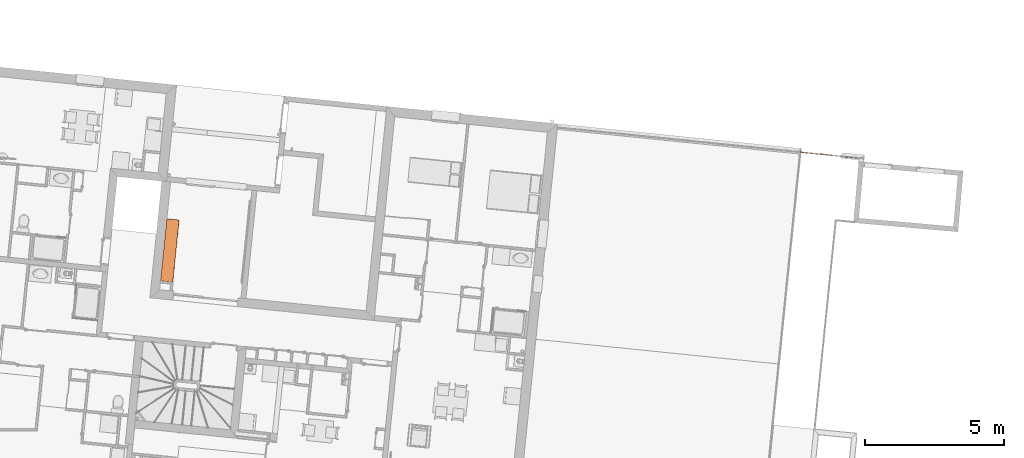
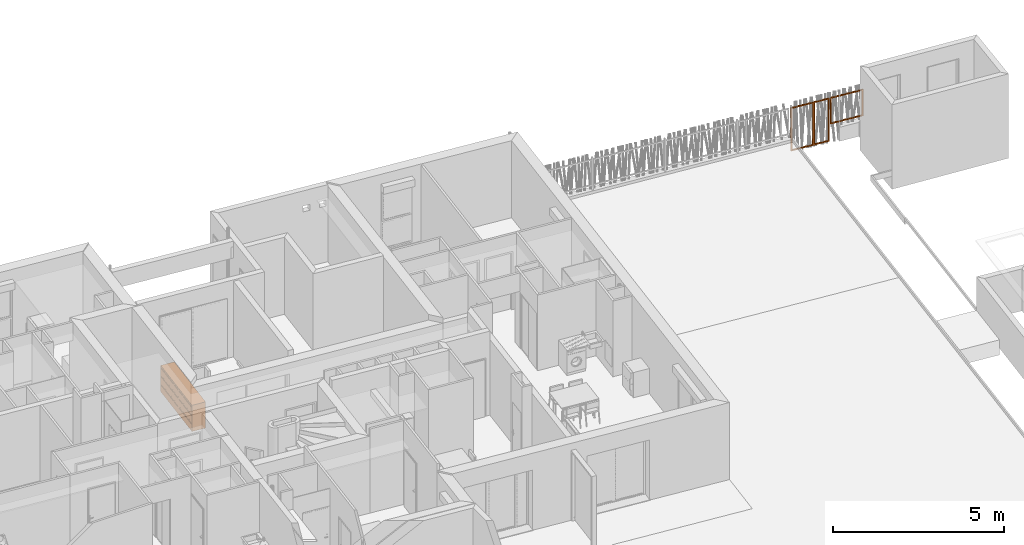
# One storey, part 171 of 171: 4 proxies.
"""IFC2X3 building model written with IfcOpenShell, lengths in millimetres."""

from ifc_helpers import new_model, entity, si_unit, converted_unit, derived_unit, money_unit, direction, frame, origin_with_axes, place, context, subcontext, project, spatial, faceted_brep, type_object, element, save


model = new_model("IFC2X3")

# Units and contexts
model_context = context("Model", 3, precision=0.01, world=origin_with_axes(), true_north=direction((0.0, 1.0)))
body_context = subcontext(model_context, "Body", "Model", "MODEL_VIEW")
ifc_project = project(units=[si_unit("LENGTHUNIT", "METRE", prefix="MILLI"), si_unit("AREAUNIT", "SQUARE_METRE"), si_unit("VOLUMEUNIT", "CUBIC_METRE"), converted_unit("PLANEANGLEUNIT", "DEGREE", entity("IfcPlaneAngleMeasure", 0.0174532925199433), si_unit("PLANEANGLEUNIT", "RADIAN"), dimensions=[0, 0, 0, 0, 0, 0, 0]), money_unit("USD"), converted_unit("TIMEUNIT", "Year", entity("IfcTimeMeasure", 31557600.0), si_unit("TIMEUNIT", "SECOND"), dimensions=[0, 0, 1, 0, 0, 0, 0]), si_unit("MASSUNIT", "GRAM", prefix="KILO"), si_unit("THERMODYNAMICTEMPERATUREUNIT", "DEGREE_CELSIUS"), si_unit("LUMINOUSINTENSITYUNIT", "LUMEN"), si_unit("ENERGYUNIT", "JOULE", prefix="MEGA"), derived_unit("THERMALCONDUCTANCEUNIT", [(si_unit("POWERUNIT", "WATT"), 1), (si_unit("LENGTHUNIT", "METRE"), -1), (si_unit("THERMODYNAMICTEMPERATUREUNIT", "KELVIN"), -1)]), derived_unit("SPECIFICHEATCAPACITYUNIT", [(si_unit("ENERGYUNIT", "JOULE"), 1), (si_unit("MASSUNIT", "GRAM", prefix="KILO"), -1), (si_unit("THERMODYNAMICTEMPERATUREUNIT", "KELVIN"), -1)]), derived_unit("MASSDENSITYUNIT", [(si_unit("MASSUNIT", "GRAM", prefix="KILO"), 1), (si_unit("VOLUMEUNIT", "CUBIC_METRE"), -1)])], contexts=[model_context])

# Site, building, storey
site_placement = place(None, origin_with_axes())
site = spatial("IfcSite", under=ifc_project, at=site_placement, Name="Site", CompositionType="ELEMENT")
building_placement = place(site_placement, origin_with_axes())
building = spatial("IfcBuilding", under=site, at=building_placement, Name="Bâtiment", CompositionType="ELEMENT")
storey_placement = place(building_placement, frame((0.0, 0.0, 3000.0), z_axis=(0.0, 0.0, 1.0), x_axis=(1.0, 0.0, 0.0)))
storey = spatial("IfcBuildingStorey", under=building, at=storey_placement, Name="rdc", CompositionType="ELEMENT", Elevation=3000.0)

# Proxies
building_element_proxy_type = type_object("IfcBuildingElementProxyType", PredefinedType="NOTDEFINED")
proxy_1_placement = place(storey_placement, frame((2226604.179989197, -609682.8712283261, 450.0000000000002), z_axis=(0.0, 0.0, 1.0), x_axis=(-0.1011032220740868, -0.9948759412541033, 0.0)))
element("IfcBuildingElementProxy", 1, at=proxy_1_placement, inside=storey, type_object=building_element_proxy_type, Name="Obj.-317", context=body_context, shape_type="Brep", body=[
    faceted_brep([(15.0, 0.0, 15.00000000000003), (329.0000000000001, 0.0, 15.00000000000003), (329.0000000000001, -440.0, 15.00000000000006), (15.0, -440.0, 15.00000000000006), (15.0, 0.0, 315.0), (329.0000000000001, 0.0, 315.0), (40.0, 0.0, 240.0), (304.0000000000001, 0.0, 240.0), (304.0000000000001, 0.0, 270.0), (40.0, 0.0, 270.0), (329.0000000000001, -440.0, 315.0), (15.0, -440.0, 315.0), (40.0, -440.0, 240.0000000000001), (40.0, -440.0, 270.0), (304.0000000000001, -440.0, 270.0), (304.0000000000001, -440.0, 240.0000000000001)], [[[0, 1, 2, 3]], [[0, 4, 5, 1], [6, 7, 8, 9]], [[1, 5, 10, 2]], [[3, 2, 10, 11], [12, 13, 14, 15]], [[4, 0, 3, 11]], [[5, 4, 11, 10]], [[7, 6, 12, 15]], [[8, 7, 15, 14]], [[9, 8, 14, 13]], [[6, 9, 13, 12]]]),
    faceted_brep([(137.0, 5.000000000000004, 75.00000000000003), (207.0, 5.000000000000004, 75.00000000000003), (207.0, 0.0, 75.00000000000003), (137.0, 0.0, 75.00000000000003), (137.0, 5.000000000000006, 100.0), (207.0, 5.000000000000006, 100.0), (207.0, 0.0, 100.0), (137.0, 0.0, 100.0)], [[[0, 1, 2, 3]], [[0, 4, 5, 1]], [[1, 5, 6, 2]], [[3, 2, 6, 7]], [[4, 0, 3, 7]], [[5, 4, 7, 6]]]),
    faceted_brep([(15.0, 0.0, 317.0), (329.0000000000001, 0.0, 317.0), (329.0000000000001, -440.0, 317.0), (15.0, -440.0, 317.0), (15.0, 0.0, 617.0), (329.0000000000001, 0.0, 617.0), (40.0, 0.0, 542.0), (304.0000000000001, 0.0, 542.0), (304.0000000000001, 0.0, 572.0000000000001), (40.0, 0.0, 572.0000000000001), (329.0000000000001, -440.0, 617.0), (15.0, -440.0, 617.0), (40.0, -440.0, 542.0), (40.0, -440.0, 572.0000000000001), (304.0000000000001, -440.0, 572.0000000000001), (304.0000000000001, -440.0, 542.0)], [[[0, 1, 2, 3]], [[0, 4, 5, 1], [6, 7, 8, 9]], [[1, 5, 10, 2]], [[3, 2, 10, 11], [12, 13, 14, 15]], [[4, 0, 3, 11]], [[5, 4, 11, 10]], [[7, 6, 12, 15]], [[8, 7, 15, 14]], [[9, 8, 14, 13]], [[6, 9, 13, 12]]]),
    faceted_brep([(137.0, 5.000000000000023, 377.0), (207.0, 5.000000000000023, 377.0), (207.0, 0.0, 377.0), (137.0, 0.0, 377.0), (137.0, 5.000000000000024, 402.0), (207.0, 5.000000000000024, 402.0), (207.0, 0.0, 402.0), (137.0, 0.0, 402.0)], [[[0, 1, 2, 3]], [[0, 4, 5, 1]], [[1, 5, 6, 2]], [[3, 2, 6, 7]], [[4, 0, 3, 7]], [[5, 4, 7, 6]]]),
    faceted_brep([(15.0, 0.0, 619.0), (329.0000000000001, 0.0, 619.0), (329.0000000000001, -439.9999999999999, 619.0), (15.0, -439.9999999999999, 619.0), (15.0, 0.0, 919.0), (329.0000000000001, 0.0, 919.0), (40.0, 0.0, 844.0), (304.0000000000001, 0.0, 844.0), (304.0000000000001, 0.0, 874.0), (40.0, 0.0, 874.0), (329.0000000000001, -439.9999999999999, 919.0), (15.0, -439.9999999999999, 919.0), (40.0, -439.9999999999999, 844.0), (40.0, -439.9999999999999, 874.0), (304.0000000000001, -439.9999999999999, 874.0), (304.0000000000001, -439.9999999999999, 844.0)], [[[0, 1, 2, 3]], [[0, 4, 5, 1], [6, 7, 8, 9]], [[1, 5, 10, 2]], [[3, 2, 10, 11], [12, 13, 14, 15]], [[4, 0, 3, 11]], [[5, 4, 11, 10]], [[7, 6, 12, 15]], [[8, 7, 15, 14]], [[9, 8, 14, 13]], [[6, 9, 13, 12]]]),
    faceted_brep([(137.0, 5.000000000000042, 679.0), (207.0, 5.000000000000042, 679.0), (207.0, 0.0, 679.0), (137.0, 0.0, 679.0), (137.0, 5.000000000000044, 704.0), (207.0, 5.000000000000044, 704.0), (207.0, 0.0, 704.0), (137.0, 0.0, 704.0)], [[[0, 1, 2, 3]], [[0, 4, 5, 1]], [[1, 5, 6, 2]], [[3, 2, 6, 7]], [[4, 0, 3, 7]], [[5, 4, 7, 6]]]),
    faceted_brep([(331.0000000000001, 0.0, 15.00000000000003), (645.0000000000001, 0.0, 15.00000000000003), (645.0000000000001, -440.0, 15.00000000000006), (331.0000000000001, -440.0, 15.00000000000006), (331.0000000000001, 0.0, 315.0), (645.0000000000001, 0.0, 315.0), (356.0000000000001, 0.0, 240.0), (620.0000000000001, 0.0, 240.0), (620.0000000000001, 0.0, 270.0), (356.0000000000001, 0.0, 270.0), (645.0000000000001, -440.0, 315.0), (331.0000000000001, -440.0, 315.0), (356.0000000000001, -440.0, 240.0000000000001), (356.0000000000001, -440.0, 270.0), (620.0000000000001, -440.0, 270.0), (620.0000000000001, -440.0, 240.0000000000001)], [[[0, 1, 2, 3]], [[0, 4, 5, 1], [6, 7, 8, 9]], [[1, 5, 10, 2]], [[3, 2, 10, 11], [12, 13, 14, 15]], [[4, 0, 3, 11]], [[5, 4, 11, 10]], [[7, 6, 12, 15]], [[8, 7, 15, 14]], [[9, 8, 14, 13]], [[6, 9, 13, 12]]]),
    faceted_brep([(453.0000000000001, 5.000000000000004, 75.00000000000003), (523.0000000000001, 5.000000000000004, 75.00000000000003), (523.0000000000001, 0.0, 75.00000000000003), (453.0000000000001, 0.0, 75.00000000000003), (453.0000000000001, 5.000000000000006, 100.0), (523.0000000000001, 5.000000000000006, 100.0), (523.0000000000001, 0.0, 100.0), (453.0000000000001, 0.0, 100.0)], [[[0, 1, 2, 3]], [[0, 4, 5, 1]], [[1, 5, 6, 2]], [[3, 2, 6, 7]], [[4, 0, 3, 7]], [[5, 4, 7, 6]]]),
    faceted_brep([(331.0000000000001, 0.0, 317.0), (645.0000000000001, 0.0, 317.0), (645.0000000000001, -440.0, 317.0), (331.0000000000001, -440.0, 317.0), (331.0000000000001, 0.0, 617.0), (645.0000000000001, 0.0, 617.0), (356.0000000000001, 0.0, 542.0), (620.0000000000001, 0.0, 542.0), (620.0000000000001, 0.0, 572.0000000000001), (356.0000000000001, 0.0, 572.0000000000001), (645.0000000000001, -440.0, 617.0), (331.0000000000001, -440.0, 617.0), (356.0000000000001, -440.0, 542.0), (356.0000000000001, -440.0, 572.0000000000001), (620.0000000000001, -440.0, 572.0000000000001), (620.0000000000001, -440.0, 542.0)], [[[0, 1, 2, 3]], [[0, 4, 5, 1], [6, 7, 8, 9]], [[1, 5, 10, 2]], [[3, 2, 10, 11], [12, 13, 14, 15]], [[4, 0, 3, 11]], [[5, 4, 11, 10]], [[7, 6, 12, 15]], [[8, 7, 15, 14]], [[9, 8, 14, 13]], [[6, 9, 13, 12]]]),
    faceted_brep([(453.0000000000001, 5.000000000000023, 377.0), (523.0000000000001, 5.000000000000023, 377.0), (523.0000000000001, 0.0, 377.0), (453.0000000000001, 0.0, 377.0), (453.0000000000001, 5.000000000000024, 402.0), (523.0000000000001, 5.000000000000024, 402.0), (523.0000000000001, 0.0, 402.0), (453.0000000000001, 0.0, 402.0)], [[[0, 1, 2, 3]], [[0, 4, 5, 1]], [[1, 5, 6, 2]], [[3, 2, 6, 7]], [[4, 0, 3, 7]], [[5, 4, 7, 6]]]),
    faceted_brep([(331.0000000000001, 0.0, 619.0), (645.0000000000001, 0.0, 619.0), (645.0000000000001, -439.9999999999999, 619.0), (331.0000000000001, -439.9999999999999, 619.0), (331.0000000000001, 0.0, 919.0), (645.0000000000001, 0.0, 919.0), (356.0000000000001, 0.0, 844.0), (620.0000000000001, 0.0, 844.0), (620.0000000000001, 0.0, 874.0), (356.0000000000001, 0.0, 874.0), (645.0000000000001, -439.9999999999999, 919.0), (331.0000000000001, -439.9999999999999, 919.0), (356.0000000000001, -439.9999999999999, 844.0), (356.0000000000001, -439.9999999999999, 874.0), (620.0000000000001, -439.9999999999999, 874.0), (620.0000000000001, -439.9999999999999, 844.0)], [[[0, 1, 2, 3]], [[0, 4, 5, 1], [6, 7, 8, 9]], [[1, 5, 10, 2]], [[3, 2, 10, 11], [12, 13, 14, 15]], [[4, 0, 3, 11]], [[5, 4, 11, 10]], [[7, 6, 12, 15]], [[8, 7, 15, 14]], [[9, 8, 14, 13]], [[6, 9, 13, 12]]]),
    faceted_brep([(453.0000000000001, 5.000000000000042, 679.0), (523.0000000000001, 5.000000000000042, 679.0), (523.0000000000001, 0.0, 679.0), (453.0000000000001, 0.0, 679.0), (453.0000000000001, 5.000000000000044, 704.0), (523.0000000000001, 5.000000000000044, 704.0), (523.0000000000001, 0.0, 704.0), (453.0000000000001, 0.0, 704.0)], [[[0, 1, 2, 3]], [[0, 4, 5, 1]], [[1, 5, 6, 2]], [[3, 2, 6, 7]], [[4, 0, 3, 7]], [[5, 4, 7, 6]]]),
    faceted_brep([(647.0000000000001, 0.0, 15.00000000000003), (961.0000000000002, 0.0, 15.00000000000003), (961.0000000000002, -440.0, 15.00000000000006), (647.0000000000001, -440.0, 15.00000000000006), (647.0000000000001, 0.0, 315.0), (961.0000000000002, 0.0, 315.0), (672.0000000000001, 0.0, 240.0), (936.0000000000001, 0.0, 240.0), (936.0000000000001, 0.0, 270.0), (672.0000000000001, 0.0, 270.0), (961.0000000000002, -440.0, 315.0), (647.0000000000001, -440.0, 315.0), (672.0000000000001, -440.0, 240.0000000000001), (672.0000000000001, -440.0, 270.0), (936.0000000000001, -440.0, 270.0), (936.0000000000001, -440.0, 240.0000000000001)], [[[0, 1, 2, 3]], [[0, 4, 5, 1], [6, 7, 8, 9]], [[1, 5, 10, 2]], [[3, 2, 10, 11], [12, 13, 14, 15]], [[4, 0, 3, 11]], [[5, 4, 11, 10]], [[7, 6, 12, 15]], [[8, 7, 15, 14]], [[9, 8, 14, 13]], [[6, 9, 13, 12]]]),
    faceted_brep([(769.0000000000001, 5.000000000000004, 75.00000000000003), (839.0000000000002, 5.000000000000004, 75.00000000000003), (839.0000000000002, 0.0, 75.00000000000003), (769.0000000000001, 0.0, 75.00000000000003), (769.0000000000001, 5.000000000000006, 100.0), (839.0000000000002, 5.000000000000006, 100.0), (839.0000000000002, 0.0, 100.0), (769.0000000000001, 0.0, 100.0)], [[[0, 1, 2, 3]], [[0, 4, 5, 1]], [[1, 5, 6, 2]], [[3, 2, 6, 7]], [[4, 0, 3, 7]], [[5, 4, 7, 6]]]),
    faceted_brep([(647.0000000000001, 0.0, 317.0), (961.0000000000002, 0.0, 317.0), (961.0000000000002, -440.0, 317.0), (647.0000000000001, -440.0, 317.0), (647.0000000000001, 0.0, 617.0), (961.0000000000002, 0.0, 617.0), (672.0000000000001, 0.0, 542.0), (936.0000000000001, 0.0, 542.0), (936.0000000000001, 0.0, 572.0000000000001), (672.0000000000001, 0.0, 572.0000000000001), (961.0000000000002, -440.0, 617.0), (647.0000000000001, -440.0, 617.0), (672.0000000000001, -440.0, 542.0), (672.0000000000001, -440.0, 572.0000000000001), (936.0000000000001, -440.0, 572.0000000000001), (936.0000000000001, -440.0, 542.0)], [[[0, 1, 2, 3]], [[0, 4, 5, 1], [6, 7, 8, 9]], [[1, 5, 10, 2]], [[3, 2, 10, 11], [12, 13, 14, 15]], [[4, 0, 3, 11]], [[5, 4, 11, 10]], [[7, 6, 12, 15]], [[8, 7, 15, 14]], [[9, 8, 14, 13]], [[6, 9, 13, 12]]]),
    faceted_brep([(769.0000000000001, 5.000000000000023, 377.0), (839.0000000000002, 5.000000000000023, 377.0), (839.0000000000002, 0.0, 377.0), (769.0000000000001, 0.0, 377.0), (769.0000000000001, 5.000000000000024, 402.0), (839.0000000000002, 5.000000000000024, 402.0), (839.0000000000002, 0.0, 402.0), (769.0000000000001, 0.0, 402.0)], [[[0, 1, 2, 3]], [[0, 4, 5, 1]], [[1, 5, 6, 2]], [[3, 2, 6, 7]], [[4, 0, 3, 7]], [[5, 4, 7, 6]]]),
    faceted_brep([(647.0000000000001, 0.0, 619.0), (961.0000000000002, 0.0, 619.0), (961.0000000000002, -439.9999999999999, 619.0), (647.0000000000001, -439.9999999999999, 619.0), (647.0000000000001, 0.0, 919.0), (961.0000000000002, 0.0, 919.0), (672.0000000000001, 0.0, 844.0), (936.0000000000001, 0.0, 844.0), (936.0000000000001, 0.0, 874.0), (672.0000000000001, 0.0, 874.0), (961.0000000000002, -439.9999999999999, 919.0), (647.0000000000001, -439.9999999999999, 919.0), (672.0000000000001, -439.9999999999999, 844.0), (672.0000000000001, -439.9999999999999, 874.0), (936.0000000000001, -439.9999999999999, 874.0), (936.0000000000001, -439.9999999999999, 844.0)], [[[0, 1, 2, 3]], [[0, 4, 5, 1], [6, 7, 8, 9]], [[1, 5, 10, 2]], [[3, 2, 10, 11], [12, 13, 14, 15]], [[4, 0, 3, 11]], [[5, 4, 11, 10]], [[7, 6, 12, 15]], [[8, 7, 15, 14]], [[9, 8, 14, 13]], [[6, 9, 13, 12]]]),
    faceted_brep([(769.0000000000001, 5.000000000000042, 679.0), (839.0000000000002, 5.000000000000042, 679.0), (839.0000000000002, 0.0, 679.0), (769.0000000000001, 0.0, 679.0), (769.0000000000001, 5.000000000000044, 704.0), (839.0000000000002, 5.000000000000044, 704.0), (839.0000000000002, 0.0, 704.0), (769.0000000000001, 0.0, 704.0)], [[[0, 1, 2, 3]], [[0, 4, 5, 1]], [[1, 5, 6, 2]], [[3, 2, 6, 7]], [[4, 0, 3, 7]], [[5, 4, 7, 6]]]),
    faceted_brep([(963.0000000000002, 0.0, 15.00000000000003), (1277.0, 0.0, 15.00000000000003), (1277.0, -440.0, 15.00000000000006), (963.0000000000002, -440.0, 15.00000000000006), (963.0000000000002, 0.0, 315.0), (1277.0, 0.0, 315.0), (988.0000000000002, 0.0, 240.0), (1252.0, 0.0, 240.0), (1252.0, 0.0, 270.0), (988.0000000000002, 0.0, 270.0), (1277.0, -440.0, 315.0), (963.0000000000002, -440.0, 315.0), (988.0000000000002, -440.0, 240.0000000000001), (988.0000000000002, -440.0, 270.0), (1252.0, -440.0, 270.0), (1252.0, -440.0, 240.0000000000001)], [[[0, 1, 2, 3]], [[0, 4, 5, 1], [6, 7, 8, 9]], [[1, 5, 10, 2]], [[3, 2, 10, 11], [12, 13, 14, 15]], [[4, 0, 3, 11]], [[5, 4, 11, 10]], [[7, 6, 12, 15]], [[8, 7, 15, 14]], [[9, 8, 14, 13]], [[6, 9, 13, 12]]]),
    faceted_brep([(1085.0, 5.000000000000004, 75.00000000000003), (1155.0, 5.000000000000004, 75.00000000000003), (1155.0, 0.0, 75.00000000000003), (1085.0, 0.0, 75.00000000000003), (1085.0, 5.000000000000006, 100.0), (1155.0, 5.000000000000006, 100.0), (1155.0, 0.0, 100.0), (1085.0, 0.0, 100.0)], [[[0, 1, 2, 3]], [[0, 4, 5, 1]], [[1, 5, 6, 2]], [[3, 2, 6, 7]], [[4, 0, 3, 7]], [[5, 4, 7, 6]]]),
    faceted_brep([(963.0000000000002, 0.0, 317.0), (1277.0, 0.0, 317.0), (1277.0, -440.0, 317.0), (963.0000000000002, -440.0, 317.0), (963.0000000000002, 0.0, 617.0), (1277.0, 0.0, 617.0), (988.0000000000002, 0.0, 542.0), (1252.0, 0.0, 542.0), (1252.0, 0.0, 572.0000000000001), (988.0000000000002, 0.0, 572.0000000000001), (1277.0, -440.0, 617.0), (963.0000000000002, -440.0, 617.0), (988.0000000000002, -440.0, 542.0), (988.0000000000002, -440.0, 572.0000000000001), (1252.0, -440.0, 572.0000000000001), (1252.0, -440.0, 542.0)], [[[0, 1, 2, 3]], [[0, 4, 5, 1], [6, 7, 8, 9]], [[1, 5, 10, 2]], [[3, 2, 10, 11], [12, 13, 14, 15]], [[4, 0, 3, 11]], [[5, 4, 11, 10]], [[7, 6, 12, 15]], [[8, 7, 15, 14]], [[9, 8, 14, 13]], [[6, 9, 13, 12]]]),
    faceted_brep([(1085.0, 5.000000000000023, 377.0), (1155.0, 5.000000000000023, 377.0), (1155.0, 0.0, 377.0), (1085.0, 0.0, 377.0), (1085.0, 5.000000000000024, 402.0), (1155.0, 5.000000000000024, 402.0), (1155.0, 0.0, 402.0), (1085.0, 0.0, 402.0)], [[[0, 1, 2, 3]], [[0, 4, 5, 1]], [[1, 5, 6, 2]], [[3, 2, 6, 7]], [[4, 0, 3, 7]], [[5, 4, 7, 6]]]),
    faceted_brep([(963.0000000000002, 0.0, 619.0), (1277.0, 0.0, 619.0), (1277.0, -439.9999999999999, 619.0), (963.0000000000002, -439.9999999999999, 619.0), (963.0000000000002, 0.0, 919.0), (1277.0, 0.0, 919.0), (988.0000000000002, 0.0, 844.0), (1252.0, 0.0, 844.0), (1252.0, 0.0, 874.0), (988.0000000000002, 0.0, 874.0), (1277.0, -439.9999999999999, 919.0), (963.0000000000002, -439.9999999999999, 919.0), (988.0000000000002, -439.9999999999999, 844.0), (988.0000000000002, -439.9999999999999, 874.0), (1252.0, -439.9999999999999, 874.0), (1252.0, -439.9999999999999, 844.0)], [[[0, 1, 2, 3]], [[0, 4, 5, 1], [6, 7, 8, 9]], [[1, 5, 10, 2]], [[3, 2, 10, 11], [12, 13, 14, 15]], [[4, 0, 3, 11]], [[5, 4, 11, 10]], [[7, 6, 12, 15]], [[8, 7, 15, 14]], [[9, 8, 14, 13]], [[6, 9, 13, 12]]]),
    faceted_brep([(1085.0, 5.000000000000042, 679.0), (1155.0, 5.000000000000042, 679.0), (1155.0, 0.0, 679.0), (1085.0, 0.0, 679.0), (1085.0, 5.000000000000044, 704.0), (1155.0, 5.000000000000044, 704.0), (1155.0, 0.0, 704.0), (1085.0, 0.0, 704.0)], [[[0, 1, 2, 3]], [[0, 4, 5, 1]], [[1, 5, 6, 2]], [[3, 2, 6, 7]], [[4, 0, 3, 7]], [[5, 4, 7, 6]]]),
    faceted_brep([(1279.0, 0.0, 15.00000000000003), (1593.0, 0.0, 15.00000000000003), (1593.0, -440.0, 15.00000000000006), (1279.0, -440.0, 15.00000000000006), (1279.0, 0.0, 315.0), (1593.0, 0.0, 315.0), (1304.0, 0.0, 240.0), (1568.0, 0.0, 240.0), (1568.0, 0.0, 270.0), (1304.0, 0.0, 270.0), (1593.0, -440.0, 315.0), (1279.0, -440.0, 315.0), (1304.0, -440.0, 240.0000000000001), (1304.0, -440.0, 270.0), (1568.0, -440.0, 270.0), (1568.0, -440.0, 240.0000000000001)], [[[0, 1, 2, 3]], [[0, 4, 5, 1], [6, 7, 8, 9]], [[1, 5, 10, 2]], [[3, 2, 10, 11], [12, 13, 14, 15]], [[4, 0, 3, 11]], [[5, 4, 11, 10]], [[7, 6, 12, 15]], [[8, 7, 15, 14]], [[9, 8, 14, 13]], [[6, 9, 13, 12]]]),
    faceted_brep([(1401.0, 5.000000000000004, 75.00000000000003), (1471.0, 5.000000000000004, 75.00000000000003), (1471.0, 0.0, 75.00000000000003), (1401.0, 0.0, 75.00000000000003), (1401.0, 5.000000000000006, 100.0), (1471.0, 5.000000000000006, 100.0), (1471.0, 0.0, 100.0), (1401.0, 0.0, 100.0)], [[[0, 1, 2, 3]], [[0, 4, 5, 1]], [[1, 5, 6, 2]], [[3, 2, 6, 7]], [[4, 0, 3, 7]], [[5, 4, 7, 6]]]),
    faceted_brep([(1279.0, 0.0, 317.0), (1593.0, 0.0, 317.0), (1593.0, -440.0, 317.0), (1279.0, -440.0, 317.0), (1279.0, 0.0, 617.0), (1593.0, 0.0, 617.0), (1304.0, 0.0, 542.0), (1568.0, 0.0, 542.0), (1568.0, 0.0, 572.0000000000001), (1304.0, 0.0, 572.0000000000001), (1593.0, -440.0, 617.0), (1279.0, -440.0, 617.0), (1304.0, -440.0, 542.0), (1304.0, -440.0, 572.0000000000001), (1568.0, -440.0, 572.0000000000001), (1568.0, -440.0, 542.0)], [[[0, 1, 2, 3]], [[0, 4, 5, 1], [6, 7, 8, 9]], [[1, 5, 10, 2]], [[3, 2, 10, 11], [12, 13, 14, 15]], [[4, 0, 3, 11]], [[5, 4, 11, 10]], [[7, 6, 12, 15]], [[8, 7, 15, 14]], [[9, 8, 14, 13]], [[6, 9, 13, 12]]]),
    faceted_brep([(1401.0, 5.000000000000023, 377.0), (1471.0, 5.000000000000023, 377.0), (1471.0, 0.0, 377.0), (1401.0, 0.0, 377.0), (1401.0, 5.000000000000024, 402.0), (1471.0, 5.000000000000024, 402.0), (1471.0, 0.0, 402.0), (1401.0, 0.0, 402.0)], [[[0, 1, 2, 3]], [[0, 4, 5, 1]], [[1, 5, 6, 2]], [[3, 2, 6, 7]], [[4, 0, 3, 7]], [[5, 4, 7, 6]]]),
    faceted_brep([(1279.0, 0.0, 619.0), (1593.0, 0.0, 619.0), (1593.0, -439.9999999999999, 619.0), (1279.0, -439.9999999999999, 619.0), (1279.0, 0.0, 919.0), (1593.0, 0.0, 919.0), (1304.0, 0.0, 844.0), (1568.0, 0.0, 844.0), (1568.0, 0.0, 874.0), (1304.0, 0.0, 874.0), (1593.0, -439.9999999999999, 919.0), (1279.0, -439.9999999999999, 919.0), (1304.0, -439.9999999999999, 844.0), (1304.0, -439.9999999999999, 874.0), (1568.0, -439.9999999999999, 874.0), (1568.0, -439.9999999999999, 844.0)], [[[0, 1, 2, 3]], [[0, 4, 5, 1], [6, 7, 8, 9]], [[1, 5, 10, 2]], [[3, 2, 10, 11], [12, 13, 14, 15]], [[4, 0, 3, 11]], [[5, 4, 11, 10]], [[7, 6, 12, 15]], [[8, 7, 15, 14]], [[9, 8, 14, 13]], [[6, 9, 13, 12]]]),
    faceted_brep([(1401.0, 5.000000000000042, 679.0), (1471.0, 5.000000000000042, 679.0), (1471.0, 0.0, 679.0), (1401.0, 0.0, 679.0), (1401.0, 5.000000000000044, 704.0), (1471.0, 5.000000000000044, 704.0), (1471.0, 0.0, 704.0), (1401.0, 0.0, 704.0)], [[[0, 1, 2, 3]], [[0, 4, 5, 1]], [[1, 5, 6, 2]], [[3, 2, 6, 7]], [[4, 0, 3, 7]], [[5, 4, 7, 6]]]),
    faceted_brep([(1595.0, 0.0, 15.00000000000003), (1909.0, 0.0, 15.00000000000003), (1909.0, -440.0, 15.00000000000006), (1595.0, -440.0, 15.00000000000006), (1595.0, 0.0, 315.0), (1909.0, 0.0, 315.0), (1620.0, 0.0, 240.0), (1884.0, 0.0, 240.0), (1884.0, 0.0, 270.0), (1620.0, 0.0, 270.0), (1909.0, -440.0, 315.0), (1595.0, -440.0, 315.0), (1620.0, -440.0, 240.0000000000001), (1620.0, -440.0, 270.0), (1884.0, -440.0, 270.0), (1884.0, -440.0, 240.0000000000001)], [[[0, 1, 2, 3]], [[0, 4, 5, 1], [6, 7, 8, 9]], [[1, 5, 10, 2]], [[3, 2, 10, 11], [12, 13, 14, 15]], [[4, 0, 3, 11]], [[5, 4, 11, 10]], [[7, 6, 12, 15]], [[8, 7, 15, 14]], [[9, 8, 14, 13]], [[6, 9, 13, 12]]]),
    faceted_brep([(1717.0, 5.000000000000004, 75.00000000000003), (1787.0, 5.000000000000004, 75.00000000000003), (1787.0, 0.0, 75.00000000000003), (1717.0, 0.0, 75.00000000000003), (1717.0, 5.000000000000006, 100.0), (1787.0, 5.000000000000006, 100.0), (1787.0, 0.0, 100.0), (1717.0, 0.0, 100.0)], [[[0, 1, 2, 3]], [[0, 4, 5, 1]], [[1, 5, 6, 2]], [[3, 2, 6, 7]], [[4, 0, 3, 7]], [[5, 4, 7, 6]]]),
    faceted_brep([(1595.0, 0.0, 317.0), (1909.0, 0.0, 317.0), (1909.0, -440.0, 317.0), (1595.0, -440.0, 317.0), (1595.0, 0.0, 617.0), (1909.0, 0.0, 617.0), (1620.0, 0.0, 542.0), (1884.0, 0.0, 542.0), (1884.0, 0.0, 572.0000000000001), (1620.0, 0.0, 572.0000000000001), (1909.0, -440.0, 617.0), (1595.0, -440.0, 617.0), (1620.0, -440.0, 542.0), (1620.0, -440.0, 572.0000000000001), (1884.0, -440.0, 572.0000000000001), (1884.0, -440.0, 542.0)], [[[0, 1, 2, 3]], [[0, 4, 5, 1], [6, 7, 8, 9]], [[1, 5, 10, 2]], [[3, 2, 10, 11], [12, 13, 14, 15]], [[4, 0, 3, 11]], [[5, 4, 11, 10]], [[7, 6, 12, 15]], [[8, 7, 15, 14]], [[9, 8, 14, 13]], [[6, 9, 13, 12]]]),
    faceted_brep([(1717.0, 5.000000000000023, 377.0), (1787.0, 5.000000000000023, 377.0), (1787.0, 0.0, 377.0), (1717.0, 0.0, 377.0), (1717.0, 5.000000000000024, 402.0), (1787.0, 5.000000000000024, 402.0), (1787.0, 0.0, 402.0), (1717.0, 0.0, 402.0)], [[[0, 1, 2, 3]], [[0, 4, 5, 1]], [[1, 5, 6, 2]], [[3, 2, 6, 7]], [[4, 0, 3, 7]], [[5, 4, 7, 6]]]),
    faceted_brep([(1595.0, 0.0, 619.0), (1909.0, 0.0, 619.0), (1909.0, -439.9999999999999, 619.0), (1595.0, -439.9999999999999, 619.0), (1595.0, 0.0, 919.0), (1909.0, 0.0, 919.0), (1620.0, 0.0, 844.0), (1884.0, 0.0, 844.0), (1884.0, 0.0, 874.0), (1620.0, 0.0, 874.0), (1909.0, -439.9999999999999, 919.0), (1595.0, -439.9999999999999, 919.0), (1620.0, -439.9999999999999, 844.0), (1620.0, -439.9999999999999, 874.0), (1884.0, -439.9999999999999, 874.0), (1884.0, -439.9999999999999, 844.0)], [[[0, 1, 2, 3]], [[0, 4, 5, 1], [6, 7, 8, 9]], [[1, 5, 10, 2]], [[3, 2, 10, 11], [12, 13, 14, 15]], [[4, 0, 3, 11]], [[5, 4, 11, 10]], [[7, 6, 12, 15]], [[8, 7, 15, 14]], [[9, 8, 14, 13]], [[6, 9, 13, 12]]]),
    faceted_brep([(1717.0, 5.000000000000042, 679.0), (1787.0, 5.000000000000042, 679.0), (1787.0, 0.0, 679.0), (1717.0, 0.0, 679.0), (1717.0, 5.000000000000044, 704.0), (1787.0, 5.000000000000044, 704.0), (1787.0, 0.0, 704.0), (1717.0, 0.0, 704.0)], [[[0, 1, 2, 3]], [[0, 4, 5, 1]], [[1, 5, 6, 2]], [[3, 2, 6, 7]], [[4, 0, 3, 7]], [[5, 4, 7, 6]]]),
    faceted_brep([(1911.0, 0.0, 15.00000000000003), (2225.0, 0.0, 15.00000000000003), (2225.0, -440.0, 15.00000000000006), (1911.0, -440.0, 15.00000000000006), (1911.0, 0.0, 315.0), (2225.0, 0.0, 315.0), (1936.0, 0.0, 240.0), (2200.0, 0.0, 240.0), (2200.0, 0.0, 270.0), (1936.0, 0.0, 270.0), (2225.0, -440.0, 315.0), (1911.0, -440.0, 315.0), (1936.0, -440.0, 240.0000000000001), (1936.0, -440.0, 270.0), (2200.0, -440.0, 270.0), (2200.0, -440.0, 240.0000000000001)], [[[0, 1, 2, 3]], [[0, 4, 5, 1], [6, 7, 8, 9]], [[1, 5, 10, 2]], [[3, 2, 10, 11], [12, 13, 14, 15]], [[4, 0, 3, 11]], [[5, 4, 11, 10]], [[7, 6, 12, 15]], [[8, 7, 15, 14]], [[9, 8, 14, 13]], [[6, 9, 13, 12]]]),
    faceted_brep([(2033.0, 5.000000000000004, 75.00000000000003), (2103.0, 5.000000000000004, 75.00000000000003), (2103.0, 0.0, 75.00000000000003), (2033.0, 0.0, 75.00000000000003), (2033.0, 5.000000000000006, 100.0), (2103.0, 5.000000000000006, 100.0), (2103.0, 0.0, 100.0), (2033.0, 0.0, 100.0)], [[[0, 1, 2, 3]], [[0, 4, 5, 1]], [[1, 5, 6, 2]], [[3, 2, 6, 7]], [[4, 0, 3, 7]], [[5, 4, 7, 6]]]),
    faceted_brep([(1911.0, 0.0, 317.0), (2225.0, 0.0, 317.0), (2225.0, -440.0, 317.0), (1911.0, -440.0, 317.0), (1911.0, 0.0, 617.0), (2225.0, 0.0, 617.0), (1936.0, 0.0, 542.0), (2200.0, 0.0, 542.0), (2200.0, 0.0, 572.0000000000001), (1936.0, 0.0, 572.0000000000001), (2225.0, -440.0, 617.0), (1911.0, -440.0, 617.0), (1936.0, -440.0, 542.0), (1936.0, -440.0, 572.0000000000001), (2200.0, -440.0, 572.0000000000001), (2200.0, -440.0, 542.0)], [[[0, 1, 2, 3]], [[0, 4, 5, 1], [6, 7, 8, 9]], [[1, 5, 10, 2]], [[3, 2, 10, 11], [12, 13, 14, 15]], [[4, 0, 3, 11]], [[5, 4, 11, 10]], [[7, 6, 12, 15]], [[8, 7, 15, 14]], [[9, 8, 14, 13]], [[6, 9, 13, 12]]]),
    faceted_brep([(2033.0, 5.000000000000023, 377.0), (2103.0, 5.000000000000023, 377.0), (2103.0, 0.0, 377.0), (2033.0, 0.0, 377.0), (2033.0, 5.000000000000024, 402.0), (2103.0, 5.000000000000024, 402.0), (2103.0, 0.0, 402.0), (2033.0, 0.0, 402.0)], [[[0, 1, 2, 3]], [[0, 4, 5, 1]], [[1, 5, 6, 2]], [[3, 2, 6, 7]], [[4, 0, 3, 7]], [[5, 4, 7, 6]]]),
    faceted_brep([(1911.0, 0.0, 619.0), (2225.0, 0.0, 619.0), (2225.0, -439.9999999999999, 619.0), (1911.0, -439.9999999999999, 619.0), (1911.0, 0.0, 919.0), (2225.0, 0.0, 919.0), (1936.0, 0.0, 844.0), (2200.0, 0.0, 844.0), (2200.0, 0.0, 874.0), (1936.0, 0.0, 874.0), (2225.0, -439.9999999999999, 919.0), (1911.0, -439.9999999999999, 919.0), (1936.0, -439.9999999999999, 844.0), (1936.0, -439.9999999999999, 874.0), (2200.0, -439.9999999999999, 874.0), (2200.0, -439.9999999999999, 844.0)], [[[0, 1, 2, 3]], [[0, 4, 5, 1], [6, 7, 8, 9]], [[1, 5, 10, 2]], [[3, 2, 10, 11], [12, 13, 14, 15]], [[4, 0, 3, 11]], [[5, 4, 11, 10]], [[7, 6, 12, 15]], [[8, 7, 15, 14]], [[9, 8, 14, 13]], [[6, 9, 13, 12]]]),
    faceted_brep([(2033.0, 5.000000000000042, 679.0), (2103.0, 5.000000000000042, 679.0), (2103.0, 0.0, 679.0), (2033.0, 0.0, 679.0), (2033.0, 5.000000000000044, 704.0), (2103.0, 5.000000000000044, 704.0), (2103.0, 0.0, 704.0), (2033.0, 0.0, 704.0)], [[[0, 1, 2, 3]], [[0, 4, 5, 1]], [[1, 5, 6, 2]], [[3, 2, 6, 7]], [[4, 0, 3, 7]], [[5, 4, 7, 6]]]),
    faceted_brep([(0.0, 0.0, 0.0), (2240.0, 0.0, 0.0), (2240.0, -440.0, 0.0), (0.0, -440.0, 0.0), (0.0, 0.0, 933.9999999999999), (2240.0, 0.0, 933.9999999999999), (15.0, 0.0, 15.00000000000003), (2225.0, 0.0, 15.00000000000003), (2225.0, 0.0, 918.9999999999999), (15.0, 0.0, 918.9999999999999), (2240.0, -439.9999999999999, 933.9999999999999), (0.0, -439.9999999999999, 933.9999999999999), (15.0, -440.0, 15.00000000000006), (15.0, -439.9999999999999, 918.9999999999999), (2225.0, -439.9999999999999, 918.9999999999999), (2225.0, -440.0, 15.00000000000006)], [[[0, 1, 2, 3]], [[0, 4, 5, 1], [6, 7, 8, 9]], [[1, 5, 10, 2]], [[3, 2, 10, 11], [12, 13, 14, 15]], [[4, 0, 3, 11]], [[5, 4, 11, 10]], [[7, 6, 12, 15]], [[8, 7, 15, 14]], [[9, 8, 14, 13]], [[6, 9, 13, 12]]]),
])
proxy_2_placement = place(storey_placement, frame((2251137.934716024, -607500.2133905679, 200.0000000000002), z_axis=(0.0, 0.0, 1.0), x_axis=(-0.9948759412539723, 0.1011032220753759, 0.0)))
element("IfcBuildingElementProxy", 2, at=proxy_2_placement, inside=storey, type_object=building_element_proxy_type, Name="Obj.-047", context=body_context, shape_type="Brep", body=[
    faceted_brep([(0.0, 0.0, 50.0), (1056.654567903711, 0.0, 50.0), (1056.654567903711, -40.0, 50.0), (0.0, -40.0, 50.0), (0.0, 0.0, 1000.0), (1056.654567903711, 0.0, 1000.0), (40.0, 0.0, 90.0), (1016.654567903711, 0.0, 90.0), (1016.654567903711, 0.0, 960.0), (40.0, 0.0, 960.0), (1056.654567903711, -39.99999999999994, 1000.0), (0.0, -39.99999999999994, 1000.0), (40.0, -39.99999999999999, 90.0), (40.0, -39.99999999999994, 960.0), (1016.654567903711, -39.99999999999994, 960.0), (1016.654567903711, -39.99999999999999, 90.0)], [[[0, 1, 2, 3]], [[0, 4, 5, 1], [6, 7, 8, 9]], [[1, 5, 10, 2]], [[3, 2, 10, 11], [12, 13, 14, 15]], [[4, 0, 3, 11]], [[5, 4, 11, 10]], [[7, 6, 12, 15]], [[8, 7, 15, 14]], [[9, 8, 14, 13]], [[6, 9, 13, 12]]]),
])
proxy_3_placement = place(storey_placement, frame((2249559.410277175, -607339.7975032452, -400.0000000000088), z_axis=(0.0, 0.0, 1.0), x_axis=(-0.9948759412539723, 0.1011032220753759, 0.0)))
element("IfcBuildingElementProxy", 3, at=proxy_3_placement, inside=storey, type_object=building_element_proxy_type, Name="Obj.-047", context=body_context, shape_type="Brep", body=[
    faceted_brep([(0.0, 0.0, 50.0), (730.0000925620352, 0.0, 50.0), (730.0000925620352, -40.0, 50.0), (0.0, -40.0, 50.0), (0.0, 0.0, 1600.000000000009), (730.0000925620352, 0.0, 1600.000000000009), (40.0, 0.0, 90.0), (690.0000925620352, 0.0, 90.0), (690.0000925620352, 0.0, 1560.000000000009), (40.0, 0.0, 1560.000000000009), (730.0000925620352, -39.9999999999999, 1600.000000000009), (0.0, -39.9999999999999, 1600.000000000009), (40.0, -39.99999999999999, 90.0), (40.0, -39.9999999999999, 1560.000000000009), (690.0000925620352, -39.9999999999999, 1560.000000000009), (690.0000925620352, -39.99999999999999, 90.0)], [[[0, 1, 2, 3]], [[0, 4, 5, 1], [6, 7, 8, 9]], [[1, 5, 10, 2]], [[3, 2, 10, 11], [12, 13, 14, 15]], [[4, 0, 3, 11]], [[5, 4, 11, 10]], [[7, 6, 12, 15]], [[8, 7, 15, 14]], [[9, 8, 14, 13]], [[6, 9, 13, 12]]]),
])
proxy_4_placement = place(storey_placement, frame((2250056.848247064, -607390.349114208, -400.0000000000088), z_axis=(0.0, 0.0, 1.0), x_axis=(-0.9948759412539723, 0.1011032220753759, 0.0)))
element("IfcBuildingElementProxy", 4, at=proxy_4_placement, inside=storey, type_object=building_element_proxy_type, Name="Obj.-047", context=body_context, shape_type="Brep", body=[
    faceted_brep([(0.0, 0.0, 50.0), (499.9999992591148, 0.0, 50.0), (499.9999992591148, -40.0, 50.0), (0.0, -40.0, 50.0), (0.0, 0.0, 1600.000000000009), (499.9999992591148, 0.0, 1600.000000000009), (40.0, 0.0, 90.0), (459.9999992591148, 0.0, 90.0), (459.9999992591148, 0.0, 1560.000000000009), (40.0, 0.0, 1560.000000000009), (499.9999992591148, -39.9999999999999, 1600.000000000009), (0.0, -39.9999999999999, 1600.000000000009), (40.0, -39.99999999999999, 90.0), (40.0, -39.9999999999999, 1560.000000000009), (459.9999992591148, -39.9999999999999, 1560.000000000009), (459.9999992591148, -39.99999999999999, 90.0)], [[[0, 1, 2, 3]], [[0, 4, 5, 1], [6, 7, 8, 9]], [[1, 5, 10, 2]], [[3, 2, 10, 11], [12, 13, 14, 15]], [[4, 0, 3, 11]], [[5, 4, 11, 10]], [[7, 6, 12, 15]], [[8, 7, 15, 14]], [[9, 8, 14, 13]], [[6, 9, 13, 12]]]),
])

save(model, "model.ifc")
